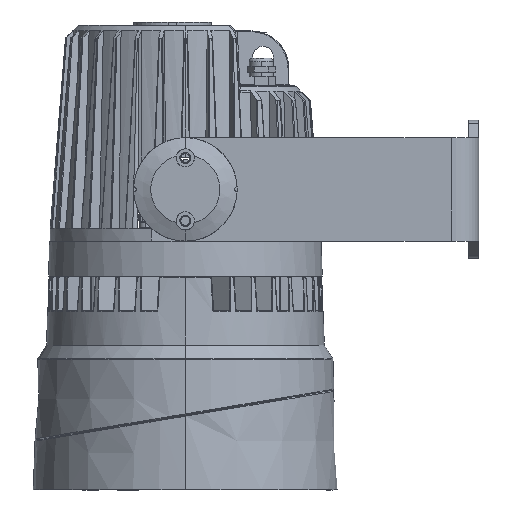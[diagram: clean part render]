
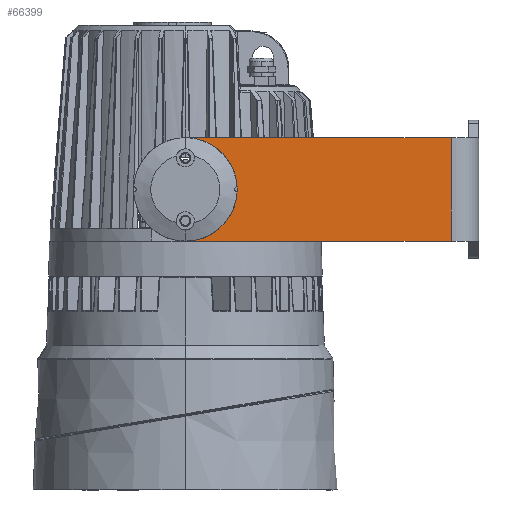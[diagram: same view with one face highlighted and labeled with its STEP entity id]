
A CAD part, front view. The second image highlights one B-rep face of the part: STEP entity #66399.
In plain terms, the highlighted planar face has unit normal (0, -1, 0).
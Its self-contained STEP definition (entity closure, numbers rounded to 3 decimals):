
#6435 = AXIS2_PLACEMENT_3D ( 'NONE', #72229, #72138, #72017 ) ;
#7909 = DIRECTION ( 'NONE',  ( 0., -1., 0. ) ) ;
#8159 = CARTESIAN_POINT ( 'NONE',  ( 81.421, -89., 39.2 ) ) ;
#11688 = ORIENTED_EDGE ( 'NONE', *, *, #30161, .T. ) ;
#11844 = LINE ( 'NONE', #8159, #12039 ) ;
#12039 = VECTOR ( 'NONE', #61488, 1000. ) ;
#12203 = CARTESIAN_POINT ( 'NONE',  ( 0., -89., 69.2 ) ) ;
#12534 = ORIENTED_EDGE ( 'NONE', *, *, #92521, .T. ) ;
#16456 = AXIS2_PLACEMENT_3D ( 'NONE', #12203, #65273, #19773 ) ;
#19773 = DIRECTION ( 'NONE',  ( 0., 0., 1. ) ) ;
#25481 = FACE_OUTER_BOUND ( 'NONE', #54380, .T. ) ;
#25740 = FACE_BOUND ( 'NONE', #42882, .T. ) ;
#25952 = VERTEX_POINT ( 'NONE', #40405 ) ;
#27249 = CARTESIAN_POINT ( 'NONE',  ( 0., -89., 69.2 ) ) ;
#27478 = VERTEX_POINT ( 'NONE', #30479 ) ;
#30161 = EDGE_CURVE ( 'NONE', #53606, #79648, #89051, .T. ) ;
#30369 = PLANE ( 'NONE',  #75389 ) ;
#30479 = CARTESIAN_POINT ( 'NONE',  ( 154., -89., 99.2 ) ) ;
#33064 = ORIENTED_EDGE ( 'NONE', *, *, #69479, .T. ) ;
#33843 = VERTEX_POINT ( 'NONE', #50650 ) ;
#34882 = DIRECTION ( 'NONE',  ( 0., 0., 1. ) ) ;
#38560 = CARTESIAN_POINT ( 'NONE',  ( 0., -89., 46.2 ) ) ;
#40405 = CARTESIAN_POINT ( 'NONE',  ( 0., -89., 39.2 ) ) ;
#42882 = EDGE_LOOP ( 'NONE', ( #72268, #11688 ) ) ;
#43691 = CARTESIAN_POINT ( 'NONE',  ( 0., -89., 92.2 ) ) ;
#46354 = CARTESIAN_POINT ( 'NONE',  ( 0., -89., 99.2 ) ) ;
#50650 = CARTESIAN_POINT ( 'NONE',  ( 154., -89., 39.2 ) ) ;
#50946 = ORIENTED_EDGE ( 'NONE', *, *, #60098, .F. ) ;
#53606 = VERTEX_POINT ( 'NONE', #38560 ) ;
#54024 = DIRECTION ( 'NONE',  ( -1., 0., 0. ) ) ;
#54380 = EDGE_LOOP ( 'NONE', ( #50946, #33064, #12534, #78674 ) ) ;
#55497 = CIRCLE ( 'NONE', #88468, 30. ) ;
#56729 = CARTESIAN_POINT ( 'NONE',  ( 0., -89., 99.2 ) ) ;
#60098 = EDGE_CURVE ( 'NONE', #25952, #90597, #55497, .T. ) ;
#60896 = DIRECTION ( 'NONE',  ( 0., 0., 1. ) ) ;
#61488 = DIRECTION ( 'NONE',  ( 1., 0., 0. ) ) ;
#62373 = CIRCLE ( 'NONE', #16456, 23. ) ;
#65273 = DIRECTION ( 'NONE',  ( 0., 1., 0. ) ) ;
#66399 = ADVANCED_FACE ( 'NONE', ( #25740, #25481 ), #30369, .T. ) ;
#69479 = EDGE_CURVE ( 'NONE', #25952, #33843, #11844, .T. ) ;
#72017 = DIRECTION ( 'NONE',  ( 0., 0., 1. ) ) ;
#72138 = DIRECTION ( 'NONE',  ( 0., 1., 0. ) ) ;
#72229 = CARTESIAN_POINT ( 'NONE',  ( 0., -89., 69.2 ) ) ;
#72268 = ORIENTED_EDGE ( 'NONE', *, *, #78966, .T. ) ;
#73821 = EDGE_CURVE ( 'NONE', #27478, #90597, #87817, .T. ) ;
#75389 = AXIS2_PLACEMENT_3D ( 'NONE', #91064, #7909, #60896 ) ;
#78674 = ORIENTED_EDGE ( 'NONE', *, *, #73821, .T. ) ;
#78966 = EDGE_CURVE ( 'NONE', #79648, #53606, #62373, .T. ) ;
#79648 = VERTEX_POINT ( 'NONE', #43691 ) ;
#80502 = DIRECTION ( 'NONE',  ( 0., 1., 0. ) ) ;
#87626 = VECTOR ( 'NONE', #54024, 1000. ) ;
#87817 = LINE ( 'NONE', #46354, #87626 ) ;
#88468 = AXIS2_PLACEMENT_3D ( 'NONE', #27249, #80502, #34882 ) ;
#89051 = CIRCLE ( 'NONE', #6435, 23. ) ;
#90315 = CARTESIAN_POINT ( 'NONE',  ( 154., -89., 110.2 ) ) ;
#90597 = VERTEX_POINT ( 'NONE', #56729 ) ;
#90975 = VECTOR ( 'NONE', #98145, 1000. ) ;
#91064 = CARTESIAN_POINT ( 'NONE',  ( 154., -89., 110.2 ) ) ;
#91441 = LINE ( 'NONE', #90315, #90975 ) ;
#92521 = EDGE_CURVE ( 'NONE', #33843, #27478, #91441, .T. ) ;
#98145 = DIRECTION ( 'NONE',  ( 0., 0., 1. ) ) ;
